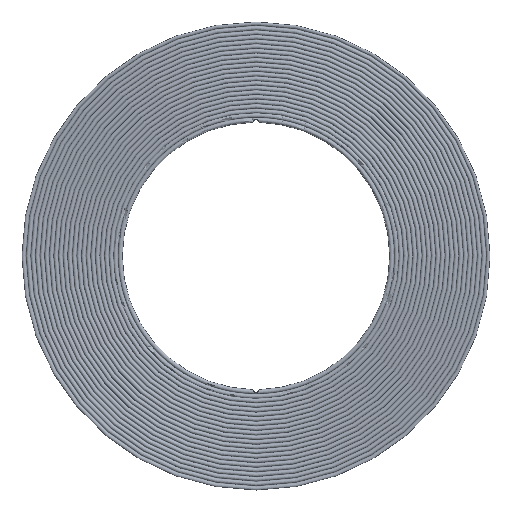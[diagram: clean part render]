
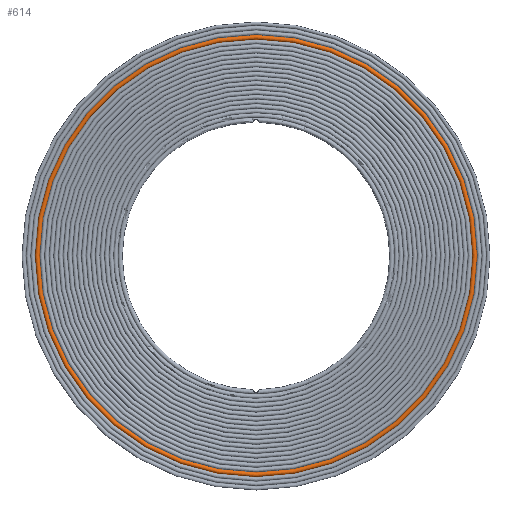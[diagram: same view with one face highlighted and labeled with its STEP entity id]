
A CAD part, top view. The second image highlights one B-rep face of the part: STEP entity #614.
In plain terms, the highlighted toroidal (fillet/blend) face has major radius 83.555 mm and minor radius 0.875 mm.
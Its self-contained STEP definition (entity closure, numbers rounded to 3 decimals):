
#119=TOROIDAL_SURFACE('',#694,83.555,0.875);
#162=CIRCLE('',#695,84.43);
#163=CIRCLE('',#696,82.68);
#214=VERTEX_POINT('',#1008);
#215=VERTEX_POINT('',#1010);
#278=EDGE_CURVE('',#214,#214,#162,.T.);
#279=EDGE_CURVE('',#215,#215,#163,.T.);
#343=ORIENTED_EDGE('',*,*,#278,.F.);
#344=ORIENTED_EDGE('',*,*,#279,.F.);
#440=EDGE_LOOP('',(#343));
#441=EDGE_LOOP('',(#344));
#534=FACE_BOUND('',#440,.T.);
#535=FACE_BOUND('',#441,.T.);
#614=ADVANCED_FACE('',(#534,#535),#119,.T.);
#694=AXIS2_PLACEMENT_3D('',#1006,#812,$);
#695=AXIS2_PLACEMENT_3D('',#1007,#813,#814);
#696=AXIS2_PLACEMENT_3D('',#1009,#815,#816);
#812=DIRECTION('',(0.,0.,1.));
#813=DIRECTION('',(0.,0.,-1.));
#814=DIRECTION('',(84.43,0.,0.));
#815=DIRECTION('',(0.,0.,1.));
#816=DIRECTION('',(82.68,0.,0.));
#1006=CARTESIAN_POINT('',(0.,0.,0.875));
#1007=CARTESIAN_POINT('',(0.,0.,0.875));
#1008=CARTESIAN_POINT('',(-84.43,0.,0.875));
#1009=CARTESIAN_POINT('',(0.,0.,0.875));
#1010=CARTESIAN_POINT('',(-82.68,0.,0.875));
